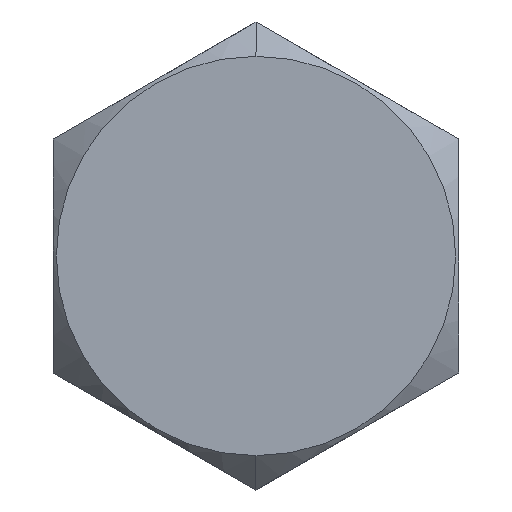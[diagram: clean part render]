
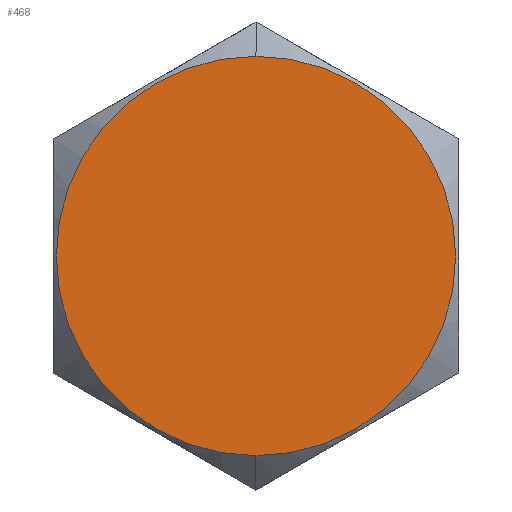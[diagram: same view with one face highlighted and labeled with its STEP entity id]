
A CAD part, left-side view. The second image highlights one B-rep face of the part: STEP entity #468.
In plain terms, the highlighted planar face has unit normal (-1, 0, 0).
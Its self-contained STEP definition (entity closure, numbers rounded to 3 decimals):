
#10 = VERTEX_POINT ( 'NONE', #359 ) ;
#24 = CARTESIAN_POINT ( 'NONE',  ( 0., 0., 6.406 ) ) ;
#36 = PLANE ( 'NONE',  #187 ) ;
#44 = EDGE_CURVE ( 'NONE', #10, #265, #543, .T. ) ;
#150 = DIRECTION ( 'NONE',  ( 1., 0., 0. ) ) ;
#159 = CARTESIAN_POINT ( 'NONE',  ( 0., 0., 0. ) ) ;
#172 = CIRCLE ( 'NONE', #242, 6.406 ) ;
#182 = DIRECTION ( 'NONE',  ( 0., 0., -1. ) ) ;
#187 = AXIS2_PLACEMENT_3D ( 'NONE', #714, #150, #405 ) ;
#193 = ORIENTED_EDGE ( 'NONE', *, *, #590, .F. ) ;
#221 = FACE_OUTER_BOUND ( 'NONE', #632, .T. ) ;
#231 = DIRECTION ( 'NONE',  ( 1., 0., 0. ) ) ;
#242 = AXIS2_PLACEMENT_3D ( 'NONE', #626, #231, #182 ) ;
#254 = AXIS2_PLACEMENT_3D ( 'NONE', #159, #415, #668 ) ;
#265 = VERTEX_POINT ( 'NONE', #24 ) ;
#331 = ORIENTED_EDGE ( 'NONE', *, *, #44, .F. ) ;
#359 = CARTESIAN_POINT ( 'NONE',  ( 0., 0., -6.406 ) ) ;
#405 = DIRECTION ( 'NONE',  ( 0., 0., -1. ) ) ;
#415 = DIRECTION ( 'NONE',  ( 1., 0., 0. ) ) ;
#468 = ADVANCED_FACE ( 'NONE', ( #221 ), #36, .F. ) ;
#543 = CIRCLE ( 'NONE', #254, 6.406 ) ;
#590 = EDGE_CURVE ( 'NONE', #265, #10, #172, .T. ) ;
#626 = CARTESIAN_POINT ( 'NONE',  ( 0., 0., 0. ) ) ;
#632 = EDGE_LOOP ( 'NONE', ( #331, #193 ) ) ;
#668 = DIRECTION ( 'NONE',  ( 0., 0., -1. ) ) ;
#714 = CARTESIAN_POINT ( 'NONE',  ( 0., 0., 0. ) ) ;
